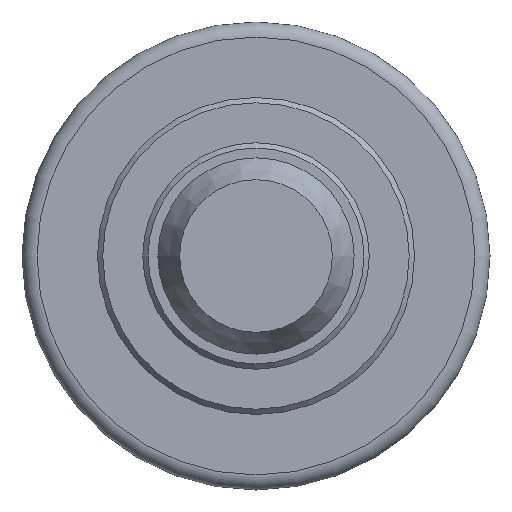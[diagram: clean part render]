
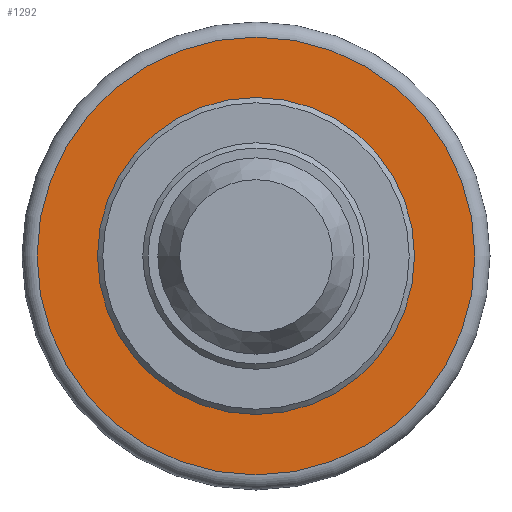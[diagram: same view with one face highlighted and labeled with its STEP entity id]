
A CAD part, left-side view. The second image highlights one B-rep face of the part: STEP entity #1292.
In plain terms, the highlighted planar face has unit normal (-1, 0, 0).
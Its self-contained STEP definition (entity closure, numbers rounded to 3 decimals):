
#1230=CARTESIAN_POINT('',(-15.0,29.,0.0));
#1231=VERTEX_POINT('',#1230);
#1232=CARTESIAN_POINT('',(-15.0,0.0,0.0));
#1233=DIRECTION('',(1.0,0.0,0.0));
#1234=DIRECTION('',(0.0,-1.0,0.0));
#1235=AXIS2_PLACEMENT_3D('',#1232,#1233,#1234);
#1236=CIRCLE('',#1235,29.);
#1237=EDGE_CURVE('',#1231,#1231,#1236,.T.);
#1273=CARTESIAN_POINT('',(-15.0,25.5,0.0));
#1274=DIRECTION('',(-1.0,0.0,0.0));
#1275=DIRECTION('',(0.0,0.0,1.0));
#1276=AXIS2_PLACEMENT_3D('',#1273,#1274,#1275);
#1277=PLANE('',#1276);
#1278=ORIENTED_EDGE('',*,*,#1237,.F.);
#1279=EDGE_LOOP('',(#1278));
#1280=FACE_OUTER_BOUND('',#1279,.T.);
#1281=CARTESIAN_POINT('',(-15.,20.0,0.0));
#1282=VERTEX_POINT('',#1281);
#1283=CARTESIAN_POINT('',(-15.,0.0,0.0));
#1284=DIRECTION('',(1.0,0.0,0.0));
#1285=DIRECTION('',(0.0,1.0,0.0));
#1286=AXIS2_PLACEMENT_3D('',#1283,#1284,#1285);
#1287=CIRCLE('',#1286,20.0);
#1288=EDGE_CURVE('',#1282,#1282,#1287,.T.);
#1289=ORIENTED_EDGE('',*,*,#1288,.T.);
#1290=EDGE_LOOP('',(#1289));
#1291=FACE_BOUND('',#1290,.T.);
#1292=ADVANCED_FACE('',(#1280,#1291),#1277,.T.);
